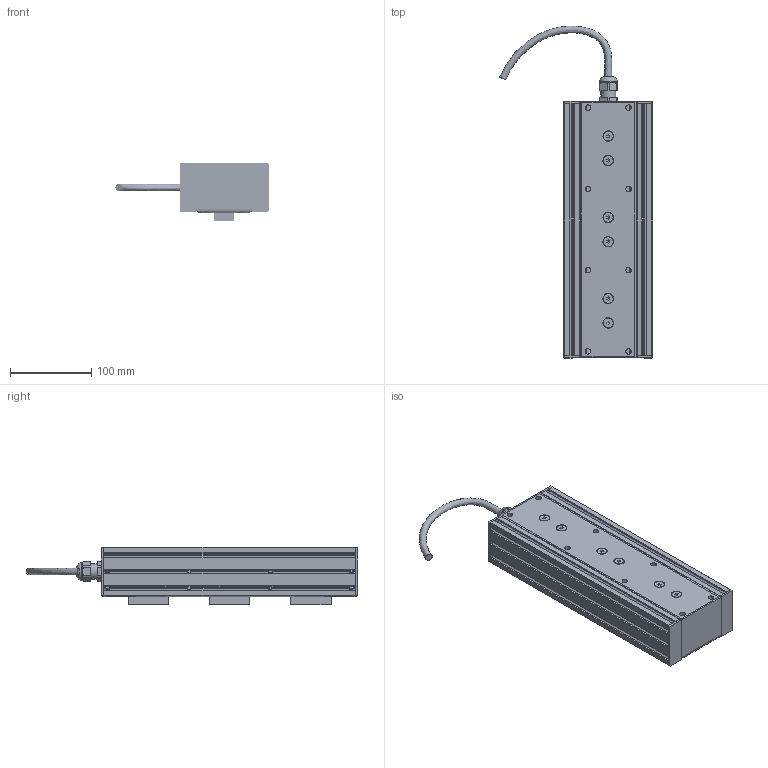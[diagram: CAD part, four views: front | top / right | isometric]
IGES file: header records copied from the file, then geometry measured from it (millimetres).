
Global section: file name: ELFQ-FA-PR103-T; native system: unknown; preprocessor: unknown; author: unknown; organization: unknown; date: 20240523.143340; units: millimetre
Bounding box: 188.37 x 408.54 x 71 mm (x, y, z)
Volume: 876604.1 mm3; surface area: 540786.1 mm2
Topology: 24 solids, 24 shells, 2137 faces, 11923 edges, 10876 vertices
Faces by surface type: bspline 1566, revolution 571
